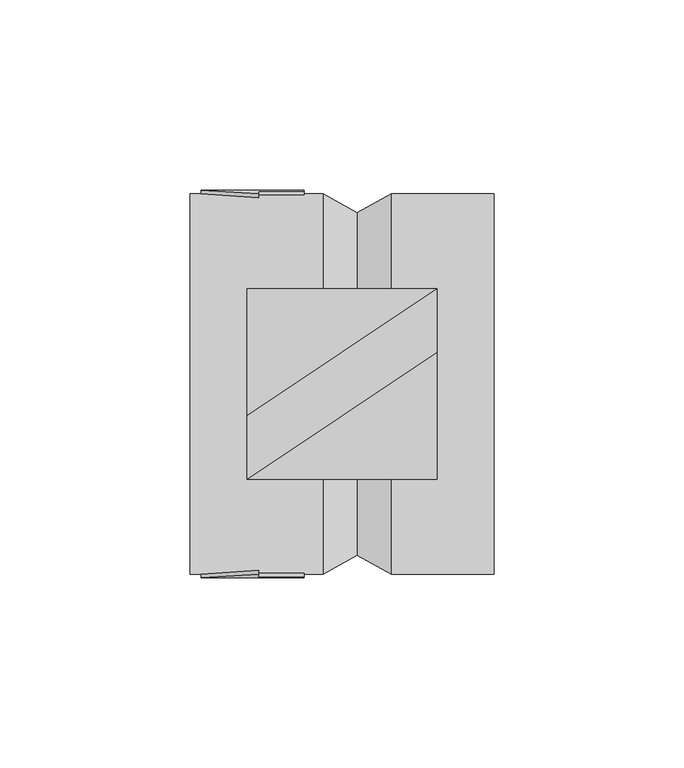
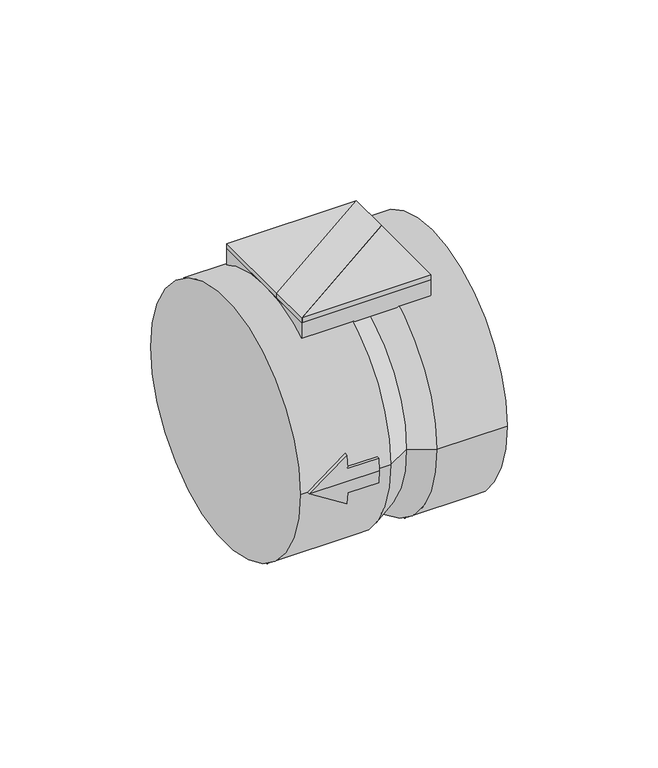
"""IFC4 building model written with IfcOpenShell, lengths in millimetres: damper geometry, KORF_Клапан_Обратный_Круглый_KOK : КОK 100."""

from ifc_helpers import new_model, si_unit, frame, origin, place, context, project, spatial, polyline, circle_curve, ellipse_curve, outline, extrude, source, transform, mapped, element, save
from ifc_brep_helpers import plane_surface, cylinder_surface, revolved_surface, advanced_brep


def damper_88687493(model_context):
    return source(origin(), model_context, "Body", "SolidModel", [
        extrude(outline(polyline([(65.0, 25.0), (65.0, 8.3333333), (15.0, -25.0), (15.0, -8.3333333), (65.0, 25.0)])), frame((0.0, 0.0, 50.0), z_axis=(0.0, 0.0, 1.0), x_axis=(1.0, 0.0, 0.0)), (0.0, 0.0, 1.0), 2.0),
        extrude(outline(polyline([(65.0, 25.0), (15.0, -8.3333333), (15.0, 25.0), (65.0, 25.0)])), frame((0.0, 0.0, 50.0), z_axis=(0.0, 0.0, 1.0), x_axis=(1.0, 0.0, 0.0)), (0.0, 0.0, 1.0), 2.0),
        extrude(outline(polyline([(15.0, -25.0), (65.0, 8.3333333), (65.0, -25.0), (15.0, -25.0)])), frame((0.0, 0.0, 50.0), z_axis=(0.0, 0.0, 1.0), x_axis=(1.0, 0.0, 0.0)), (0.0, 0.0, 1.0), 2.0),
        advanced_brep(
        [(18.0, -48.9897949, 10.0), (3.0, -50.0, 0.0), (3.0, -51.0, 0.0), (18.0, -50.009999, 10.0), (18.0, -48.9897949, -10.0), (18.0, -50.009999, -10.0), (18.0, -49.7493719, -5.0), (18.0, -50.7543102, -5.0), (30.0, -49.7493719, -5.0), (30.0, -50.7543102, -5.0), (30.0, -50.0, 0.0), (30.0, -49.7493719, 5.0), (30.0, -50.7543102, 5.0), (30.0, -51.0, 0.0), (18.0, -49.7493719, 5.0), (18.0, -50.7543102, 5.0)],
        [
            (0, 1, ellipse_curve(frame((3.0, 0.0, 0.0), z_axis=(0.5547001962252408, 0.0, -0.832050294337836), x_axis=(0.8320502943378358, 0.0, 0.5547001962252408)), 90.1387819, 50.0)),
            (1, 2),
            (2, 3, ellipse_curve(frame((3.0, 0.0, 0.0), z_axis=(-0.5547001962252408, 0.0, 0.832050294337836), x_axis=(-0.8320502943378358, 0.0, -0.5547001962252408)), 91.9415575, 51.0)),
            (3, 0),
            (1, 4, ellipse_curve(frame((3.0, 0.0, 0.0), z_axis=(0.5547001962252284, 0.0, 0.8320502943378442), x_axis=(0.8320502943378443, 0.0, -0.5547001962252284)), 90.1387819, 50.0)),
            (4, 5),
            (5, 2, ellipse_curve(frame((3.0, 0.0, 0.0), z_axis=(-0.5547001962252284, 0.0, -0.8320502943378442), x_axis=(-0.8320502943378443, 0.0, 0.5547001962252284)), 91.9415575, 51.0)),
            (4, 6, circle_curve(frame((18.0, 0.0, 0.0), z_axis=(-1.0, 0.0, 0.0), x_axis=(0.0, 1.0, 0.0)), 50.0)),
            (6, 7),
            (7, 5, circle_curve(frame((18.0, 0.0, 0.0), z_axis=(1.0, 0.0, 0.0), x_axis=(0.0, 1.0, 0.0)), 51.0)),
            (6, 8),
            (8, 9),
            (9, 7),
            (8, 10, circle_curve(frame((30.0, 0.0, 0.0), z_axis=(-1.0, 0.0, 0.0), x_axis=(0.0, 1.0, 0.0)), 50.0)),
            (10, 11, circle_curve(frame((30.0, 0.0, 0.0), z_axis=(-1.0, 0.0, 0.0), x_axis=(0.0, 1.0, 0.0)), 50.0)),
            (11, 12),
            (12, 13, circle_curve(frame((30.0, 0.0, 0.0), z_axis=(1.0, 0.0, 0.0), x_axis=(0.0, 1.0, 0.0)), 51.0)),
            (13, 9, circle_curve(frame((30.0, 0.0, 0.0), z_axis=(1.0, 0.0, 0.0), x_axis=(0.0, 1.0, 0.0)), 51.0)),
            (11, 14),
            (14, 15),
            (15, 12),
            (14, 0, circle_curve(frame((18.0, 0.0, 0.0), z_axis=(-1.0, 0.0, 0.0), x_axis=(0.0, 1.0, 0.0)), 50.0)),
            (3, 15, circle_curve(frame((18.0, 0.0, 0.0), z_axis=(1.0, 0.0, 0.0), x_axis=(0.0, 1.0, 0.0)), 51.0)),
            (1, 10),
            (2, 13),
        ],
        [
            plane_surface(frame((18.0, -52.0, 10.0), z_axis=(-0.5547001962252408, 0.0, 0.832050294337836), x_axis=(0.0, 1.0, 0.0))),
            plane_surface(frame((3.0, -52.0, 0.0), z_axis=(-0.5547001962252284, 0.0, -0.8320502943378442), x_axis=(0.0, 1.0, 0.0))),
            plane_surface(frame((18.0, -52.0, -10.0), z_axis=(1.0, 0.0, 0.0), x_axis=(0.0, 1.0, 0.0))),
            plane_surface(frame((18.0, -52.0, -5.0), z_axis=(0.0, 0.0, -1.0), x_axis=(0.0, 1.0, 0.0))),
            plane_surface(frame((30.0, -52.0, -5.0), z_axis=(1.0, 0.0, 0.0), x_axis=(0.0, 1.0, 0.0))),
            plane_surface(frame((30.0, -52.0, 5.0), z_axis=(0.0, 0.0, 1.0), x_axis=(0.0, 1.0, 0.0))),
            plane_surface(frame((18.0, -52.0, 5.0), z_axis=(1.0, 0.0, 0.0), x_axis=(0.0, 1.0, 0.0))),
            revolved_surface(polyline([(78.00000001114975, 50.0, 0.0), (-72.00000001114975, 50.0, 0.0)]), (0.0, 0.0, 0.0), (1.0, 0.0, 0.0)),
            revolved_surface(polyline([(78.00000001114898, 50.0, 0.0), (-72.00000001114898, 50.0, 0.0)]), (0.0, 0.0, 0.0), (1.0, 0.0, 0.0)),
            cylinder_surface(frame((0.0, 0.0, 0.0), z_axis=(-1.0, 0.0, 0.0), x_axis=(0.0, 1.0, 0.0)), 51.0),
        ],
        [
            (0, [[1, 2, 3, 4]]),
            (1, [[5, 6, 7, -2]]),
            (2, [[8, 9, 10, -6]]),
            (3, [[11, 12, 13, -9]]),
            (4, [[14, 15, 16, 17, 18, -12]]),
            (5, [[19, 20, 21, -16]]),
            (6, [[22, -4, 23, -20]]),
            (7, [[24, -14, -11, -8, -5]]),
            (8, [[-24, -1, -22, -19, -15]]),
            (9, [[25, -17, -21, -23, -3]]),
            (9, [[-25, -7, -10, -13, -18]]),
        ],
    ),
        advanced_brep(
        [(3.0, 50.0, 0.0), (18.0, 48.9897949, 10.0), (18.0, 50.009999, 10.0), (3.0, 51.0, 0.0), (18.0, 48.9897949, -10.0), (18.0, 50.009999, -10.0), (18.0, 49.7493719, -5.0), (18.0, 50.7543102, -5.0), (30.0, 49.7493719, -5.0), (30.0, 50.7543102, -5.0), (30.0, 50.0, 0.0), (30.0, 51.0, 0.0), (30.0, 50.7543102, 5.0), (30.0, 49.7493719, 5.0), (18.0, 49.7493719, 5.0), (18.0, 50.7543102, 5.0)],
        [
            (0, 1, ellipse_curve(frame((3.0, 0.0, 0.0), z_axis=(0.5547001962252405, 0.0, -0.8320502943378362), x_axis=(0.8320502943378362, 0.0, 0.5547001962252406)), 90.1387819, 50.0)),
            (1, 2),
            (2, 3, ellipse_curve(frame((3.0, 0.0, 0.0), z_axis=(-0.5547001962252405, 0.0, 0.8320502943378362), x_axis=(-0.8320502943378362, 0.0, -0.5547001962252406)), 91.9415575, 51.0)),
            (3, 0),
            (4, 0, ellipse_curve(frame((3.0, 0.0, 0.0), z_axis=(0.554700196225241, 0.0, 0.8320502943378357), x_axis=(0.8320502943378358, 0.0, -0.554700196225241)), 90.1387819, 50.0)),
            (3, 5, ellipse_curve(frame((3.0, 0.0, 0.0), z_axis=(-0.554700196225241, 0.0, -0.8320502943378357), x_axis=(-0.8320502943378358, 0.0, 0.554700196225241)), 91.9415575, 51.0)),
            (5, 4),
            (6, 4, circle_curve(frame((18.0, 0.0, 0.0), z_axis=(-1.0, 0.0, 0.0), x_axis=(0.0, 1.0, 0.0)), 50.0)),
            (5, 7, circle_curve(frame((18.0, 0.0, 0.0), z_axis=(1.0, 0.0, 0.0), x_axis=(0.0, 1.0, 0.0)), 51.0)),
            (7, 6),
            (8, 6),
            (7, 9),
            (9, 8),
            (10, 8, circle_curve(frame((30.0, 0.0, 0.0), z_axis=(-1.0, 0.0, 0.0), x_axis=(0.0, 1.0, 0.0)), 50.0)),
            (9, 11, circle_curve(frame((30.0, 0.0, 0.0), z_axis=(1.0, 0.0, 0.0), x_axis=(0.0, 1.0, 0.0)), 51.0)),
            (11, 12, circle_curve(frame((30.0, 0.0, 0.0), z_axis=(1.0, 0.0, 0.0), x_axis=(0.0, 1.0, 0.0)), 51.0)),
            (12, 13),
            (13, 10, circle_curve(frame((30.0, 0.0, 0.0), z_axis=(-1.0, 0.0, 0.0), x_axis=(0.0, 1.0, 0.0)), 50.0)),
            (14, 13),
            (12, 15),
            (15, 14),
            (1, 14, circle_curve(frame((18.0, 0.0, 0.0), z_axis=(-1.0, 0.0, 0.0), x_axis=(0.0, 1.0, 0.0)), 50.0)),
            (15, 2, circle_curve(frame((18.0, 0.0, 0.0), z_axis=(1.0, 0.0, 0.0), x_axis=(0.0, 1.0, 0.0)), 51.0)),
            (10, 0),
            (11, 3),
        ],
        [
            plane_surface(frame((18.0, 48.0, 10.0), z_axis=(-0.5547001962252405, 0.0, 0.8320502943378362), x_axis=(0.0, 1.0, 0.0))),
            plane_surface(frame((3.0, 48.0, 0.0), z_axis=(-0.554700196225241, 0.0, -0.8320502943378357), x_axis=(0.0, 1.0, 0.0))),
            plane_surface(frame((18.0, 48.0, -10.0), z_axis=(1.0, 0.0, 0.0), x_axis=(0.0, 1.0, 0.0))),
            plane_surface(frame((18.0, 48.0, -5.0), z_axis=(0.0, 0.0, -1.0), x_axis=(0.0, 1.0, 0.0))),
            plane_surface(frame((30.0, 48.0, -5.0), z_axis=(1.0, 0.0, 0.0), x_axis=(0.0, 1.0, 0.0))),
            plane_surface(frame((30.0, 48.0, 5.0), z_axis=(0.0, 0.0, 1.0), x_axis=(0.0, 1.0, 0.0))),
            plane_surface(frame((18.0, 48.0, 5.0), z_axis=(1.0, 0.0, 0.0), x_axis=(0.0, 1.0, 0.0))),
            revolved_surface(polyline([(78.00000001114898, 50.0, 0.0), (-72.00000001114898, 50.0, 0.0)]), (0.0, 0.0, 0.0), (1.0, 0.0, 0.0)),
            revolved_surface(polyline([(78.00000001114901, 50.0, 0.0), (-72.00000001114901, 50.0, 0.0)]), (0.0, 0.0, 0.0), (1.0, 0.0, 0.0)),
            cylinder_surface(frame((0.0, 0.0, 0.0), z_axis=(-1.0, 0.0, 0.0), x_axis=(0.0, 1.0, 0.0)), 51.0),
        ],
        [
            (0, [[1, 2, 3, 4]]),
            (1, [[5, -4, 6, 7]]),
            (2, [[8, -7, 9, 10]]),
            (3, [[11, -10, 12, 13]]),
            (4, [[14, -13, 15, 16, 17, 18]]),
            (5, [[19, -17, 20, 21]]),
            (6, [[22, -21, 23, -2]]),
            (7, [[24, -5, -8, -11, -14]]),
            (8, [[-24, -18, -19, -22, -1]]),
            (9, [[25, -3, -23, -20, -16]]),
            (9, [[-25, -15, -12, -9, -6]]),
        ],
    ),
        advanced_brep(
        [(80.0, -50.0, 0.0), (80.0, 50.0, 0.0), (0.0, -50.0, 0.0), (0.0, 50.0, 0.0), (53.0, -50.0, 0.0), (53.0, 50.0, 0.0), (35.0, 50.0, 0.0), (35.0, -50.0, 0.0), (44.0, 45.0, 0.0), (44.0, -45.0, 0.0)],
        [
            (0, 1, circle_curve(frame((80.0, 0.0, 0.0), z_axis=(1.0, 0.0, 0.0), x_axis=(0.0, 1.0, 0.0)), 50.0)),
            (1, 0, circle_curve(frame((80.0, 0.0, 0.0), z_axis=(1.0, 0.0, 0.0), x_axis=(0.0, 1.0, 0.0)), 50.0)),
            (2, 3, circle_curve(frame((0.0, 0.0, 0.0), z_axis=(-1.0, 0.0, 0.0), x_axis=(0.0, 1.0, 0.0)), 50.0)),
            (3, 2, circle_curve(frame((0.0, 0.0, 0.0), z_axis=(-1.0, 0.0, 0.0), x_axis=(0.0, 1.0, 0.0)), 50.0)),
            (0, 4),
            (4, 5, circle_curve(frame((53.0, 0.0, 0.0), z_axis=(1.0, 0.0, 0.0), x_axis=(0.0, 1.0, 0.0)), 50.0)),
            (5, 1),
            (3, 6),
            (6, 7, circle_curve(frame((35.0, 0.0, 0.0), z_axis=(-1.0, 0.0, 0.0), x_axis=(0.0, 1.0, 0.0)), 50.0)),
            (7, 2),
            (5, 4, circle_curve(frame((53.0, 0.0, 0.0), z_axis=(1.0, 0.0, 0.0), x_axis=(0.0, 1.0, 0.0)), 50.0)),
            (7, 6, circle_curve(frame((35.0, 0.0, 0.0), z_axis=(-1.0, 0.0, 0.0), x_axis=(0.0, 1.0, 0.0)), 50.0)),
            (6, 8),
            (8, 9, circle_curve(frame((44.0, 0.0, 0.0), z_axis=(-1.0, 0.0, 0.0), x_axis=(0.0, -1.0, 0.0)), 45.0)),
            (9, 7),
            (8, 5),
            (4, 9),
            (9, 8, circle_curve(frame((44.0, 0.0, 0.0), z_axis=(-1.0, 0.0, 0.0), x_axis=(0.0, 1.0, 0.0)), 45.0)),
        ],
        [
            plane_surface(frame((80.0, 50.0, 0.0), z_axis=(1.0, 0.0, 0.0), x_axis=(0.0, 0.0, 1.0))),
            plane_surface(frame((0.0, 50.0, 0.0), z_axis=(-1.0, 0.0, 0.0), x_axis=(0.0, 0.0, -1.0))),
            cylinder_surface(frame((0.0, 0.0, 0.0), z_axis=(1.0, 0.0, 0.0), x_axis=(0.0, 1.0, 0.0)), 50.0),
            revolved_surface(polyline([(35.0, -50.0, 0.0), (44.0, -45.0, 0.0)]), (0.0, 0.0, 0.0), (1.0, 0.0, 0.0)),
            revolved_surface(polyline([(44.0, -45.0, 0.0), (53.0, -50.0, 0.0)]), (0.0, 0.0, 0.0), (1.0, 0.0, 0.0)),
            revolved_surface(polyline([(35.0, 50.0, 0.0), (44.0, 45.0, 0.0)]), (0.0, 0.0, 0.0), (1.0, 0.0, 0.0)),
            revolved_surface(polyline([(44.0, 45.0, 0.0), (53.0, 50.0, 0.0)]), (0.0, 0.0, 0.0), (1.0, 0.0, 0.0)),
        ],
        [
            (0, [[1, 2]]),
            (1, [[3, 4]]),
            (2, [[-1, 5, 6, 7]]),
            (2, [[-4, 8, 9, 10]]),
            (2, [[-2, -7, 11, -5]]),
            (2, [[-3, -10, 12, -8]]),
            (3, [[13, 14, 15, -9]]),
            (4, [[-14, 16, -6, 17]]),
            (5, [[-13, -12, -15, 18]]),
            (6, [[-16, -18, -17, -11]]),
        ],
    ),
        advanced_brep(
        [(15.0, 25.0, 43.3012702), (65.0, 25.0, 43.3012702), (65.0, 0.0, 50.0), (65.0, -25.0, 43.3012702), (15.0, -25.0, 43.3012702), (15.0, 0.0, 50.0), (65.0, 25.0, 50.0), (15.0, 25.0, 50.0), (15.0, -25.0, 50.0), (65.0, -25.0, 50.0)],
        [
            (0, 1),
            (1, 2, circle_curve(frame((65.0, 0.0, 0.0), z_axis=(1.0, 0.0, 0.0), x_axis=(0.0, 1.0, 0.0)), 50.0)),
            (2, 3, circle_curve(frame((65.0, 0.0, 0.0), z_axis=(1.0, 0.0, 0.0), x_axis=(0.0, 1.0, 0.0)), 50.0)),
            (3, 4),
            (4, 5, circle_curve(frame((15.0, 0.0, 0.0), z_axis=(-1.0, 0.0, 0.0), x_axis=(0.0, 1.0, 0.0)), 50.0)),
            (5, 0, circle_curve(frame((15.0, 0.0, 0.0), z_axis=(-1.0, 0.0, 0.0), x_axis=(0.0, 1.0, 0.0)), 50.0)),
            (6, 7),
            (7, 5),
            (5, 8),
            (8, 9),
            (9, 2),
            (2, 6),
            (6, 1),
            (0, 7),
            (4, 8),
            (3, 9),
        ],
        [
            revolved_surface(polyline([(65.0, 50.0, 0.0), (15.0, 50.0, 0.0)]), (0.0, 0.0, 0.0), (1.0, 0.0, 0.0)),
            plane_surface(frame((15.0, 25.0, 50.0), z_axis=(0.0, 0.0, 1.0), x_axis=(-1.0, 0.0, 0.0))),
            plane_surface(frame((65.0, 25.0, 50.0), z_axis=(0.0, 1.0, 0.0), x_axis=(0.0, 0.0, -1.0))),
            plane_surface(frame((15.0, 25.0, 50.0), z_axis=(-1.0, 0.0, 0.0), x_axis=(0.0, 0.0, -1.0))),
            plane_surface(frame((15.0, -25.0, 50.0), z_axis=(0.0, -1.0, 0.0), x_axis=(0.0, 0.0, -1.0))),
            plane_surface(frame((65.0, -25.0, 50.0), z_axis=(1.0, 0.0, 0.0), x_axis=(0.0, 0.0, -1.0))),
        ],
        [
            (0, [[1, 2, 3, 4, 5, 6]]),
            (1, [[7, 8, 9, 10, 11, 12]]),
            (2, [[-7, 13, -1, 14]]),
            (3, [[-8, -14, -6]]),
            (3, [[-9, -5, 15]]),
            (4, [[-10, -15, -4, 16]]),
            (5, [[-11, -16, -3]]),
            (5, [[-12, -2, -13]]),
        ],
    ),
    ])


if __name__ == "__main__":
    model = new_model("IFC4")
    model_context = context("Model", 3, world=origin())
    ifc_project = project(units=[si_unit("LENGTHUNIT", "METRE", prefix="MILLI")], contexts=[model_context])
    site = spatial("IfcSite", under=ifc_project)
    building = spatial("IfcBuilding", under=site)
    placement = place(None, origin())
    damper_shape = damper_88687493(model_context)
    element("IfcDamper", 1, ObjectType="KORF_Клапан_Обратный_Круглый_KOK : КОK 100", at=placement, inside=building, context=model_context, shape_type="MappedRepresentation", body=[
        mapped(damper_shape, transform((0.0, 0.0, 0.0), x_axis=(1.0, 0.0, 0.0), y_axis=(0.0, 1.0, 0.0), z_axis=(0.0, 0.0, 1.0))),
    ])
    save(model, "model.ifc")
